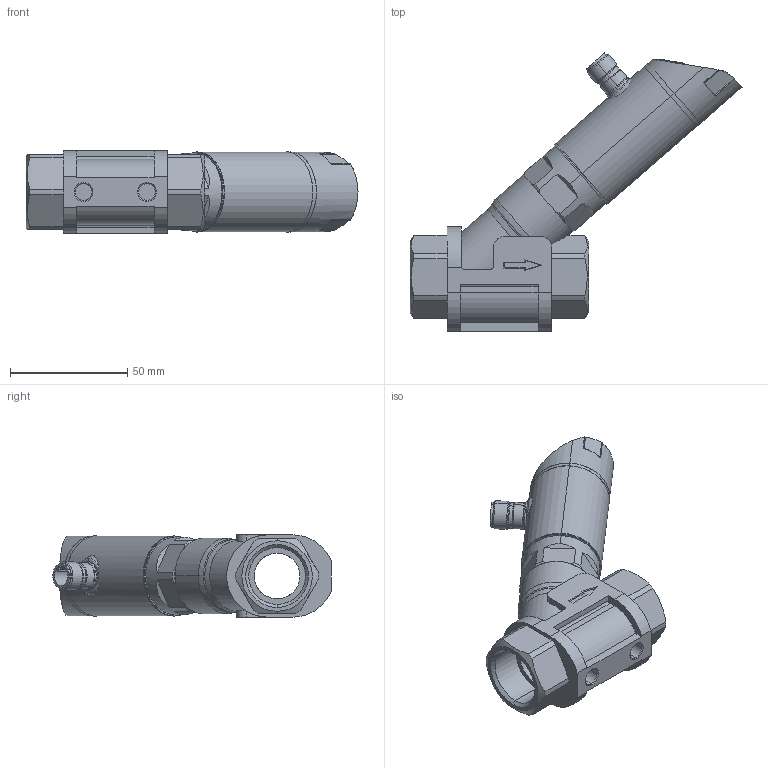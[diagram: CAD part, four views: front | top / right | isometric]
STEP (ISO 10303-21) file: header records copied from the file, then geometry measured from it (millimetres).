
FILE_DESCRIPTION (( 'STEP AP203' ), '1' );
FILE_NAME ('CAD_STP_300_0364.STEP', '2024-03-06T08:59:11', ( '' ), ( '' ), 'SwSTEP 2.0', 'SolidWorks 2022', '' );
FILE_SCHEMA (( 'CONFIG_CONTROL_DESIGN' ));
Length unit declared in the file: millimetre
Products named in the file (3): P_MZ_300_0364_P2; CAD_STP_300_0364; P_MZ_300_0364_P1
Assembly tree (2 placements, depth 2):
  CAD_STP_300_0364
    P_MZ_300_0364_P1
    P_MZ_300_0364_P2
Bounding box: 141.32 x 118.42 x 35 mm (x, y, z)
Volume: 128337.7 mm3; surface area: 33479.4 mm2
Topology: 2 solids, 2 shells, 293 faces, 748 edges, 486 vertices
Faces by surface type: cylinder 129, plane 119, cone 31, torus 14
Entity records: 9744 total; most frequent: CARTESIAN_POINT 2358, ORIENTED_EDGE 1496, DIRECTION 1490, EDGE_CURVE 748, AXIS2_PLACEMENT_3D 568, VERTEX_POINT 486, LINE 354, VECTOR 354
